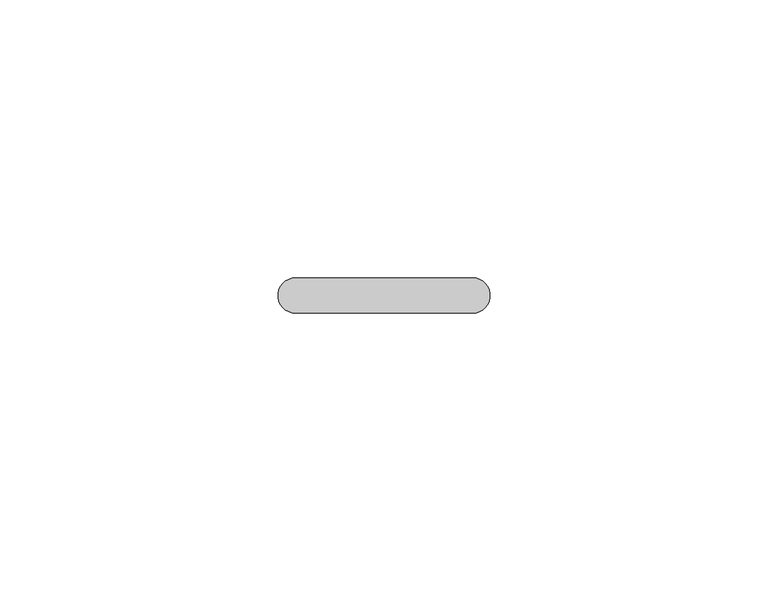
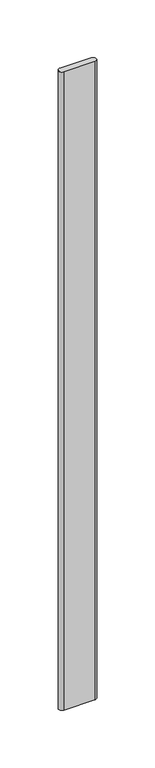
"""IFC4 building model written with IfcOpenShell, lengths in millimetres: proxy geometry, Durabond Generic Model Insulation Adhesive Flat : Durabond Generic Model Insulation Adhesive Flat."""

from ifc_helpers import new_model, si_unit, point, frame_2d, origin, origin_with_axes, place, context, project, spatial, polyline, circle_curve, trimmed, segment, composite_curve, outline, extrude, source, transform, mapped, element, save


def generic_models_233bf4a6(model_context):
    return source(origin(), model_context, "Body", "SweptSolid", [
        extrude(outline(composite_curve([segment(trimmed(circle_curve(frame_2d((15.875, 0.0)), 3.175), [point((15.875, 3.175))], [point((15.875, -3.175))], False, "CARTESIAN"), True, "CONTINUOUS"), segment(polyline([(15.875, -3.175), (-15.875, -3.175)]), True, "CONTINUOUS"), segment(trimmed(circle_curve(frame_2d((-15.875, 0.0)), 3.175), [point((-15.875, -3.175))], [point((-15.875, 3.175))], False, "CARTESIAN"), True, "CONTINUOUS"), segment(polyline([(-15.875, 3.175), (15.875, 3.175)]), True, "CONTINUOUS")], self_intersect=False)), origin_with_axes(), (0.0, 0.0, 1.0), 685.8),
    ])


if __name__ == "__main__":
    model = new_model("IFC4")
    model_context = context("Model", 3, world=origin())
    ifc_project = project(units=[si_unit("LENGTHUNIT", "METRE", prefix="MILLI")], contexts=[model_context])
    site = spatial("IfcSite", under=ifc_project)
    building = spatial("IfcBuilding", under=site)
    placement = place(None, origin())
    generic_models_shape = generic_models_233bf4a6(model_context)
    element("IfcBuildingElementProxy", 1, Name="Durabond Generic Model Insulation Adhesive Flat : Durabond Generic Model Insulation Adhesive Flat", ObjectType="Durabond Generic Model Insulation Adhesive Flat : Durabond Generic Model Insulation Adhesive Flat", at=placement, inside=building, context=model_context, shape_type="MappedRepresentation", body=[
        mapped(generic_models_shape, transform((0.0, 0.0, 0.0), x_axis=(1.0, 0.0, 0.0), y_axis=(0.0, 1.0, 0.0), z_axis=(0.0, 0.0, 1.0))),
    ])
    save(model, "model.ifc")
